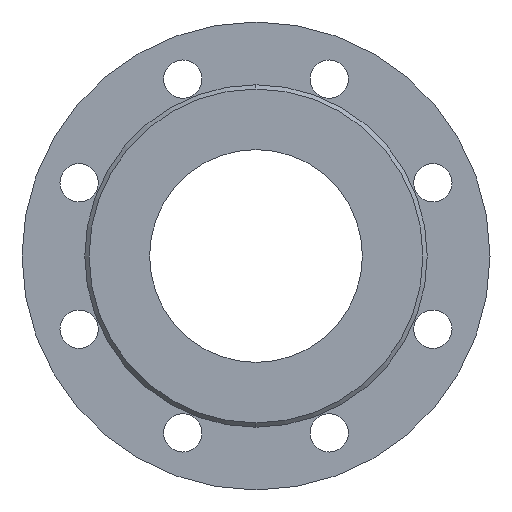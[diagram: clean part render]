
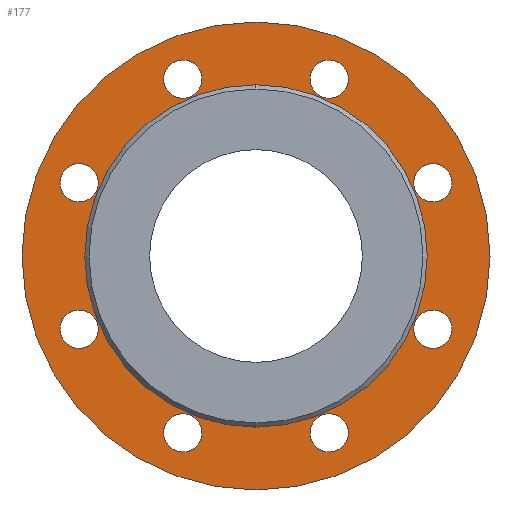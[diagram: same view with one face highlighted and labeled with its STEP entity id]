
A CAD part, left-side view. The second image highlights one B-rep face of the part: STEP entity #177.
In plain terms, the highlighted planar face has unit normal (-1, 0, 0).
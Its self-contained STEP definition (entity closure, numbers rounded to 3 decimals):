
#177=ADVANCED_FACE('',(#361,#362,#363,#364,#365,#366,#367,#368,#369,#370),#371,.F.);
#361=FACE_BOUND('',#622,.T.);
#362=FACE_BOUND('',#623,.T.);
#363=FACE_BOUND('',#624,.T.);
#364=FACE_BOUND('',#625,.T.);
#365=FACE_BOUND('',#626,.T.);
#366=FACE_BOUND('',#627,.T.);
#367=FACE_BOUND('',#628,.T.);
#368=FACE_BOUND('',#629,.T.);
#369=FACE_BOUND('',#630,.T.);
#370=FACE_OUTER_BOUND('',#631,.T.);
#371=PLANE('',#632);
#622=EDGE_LOOP('',(#966,#967));
#623=EDGE_LOOP('',(#968,#969));
#624=EDGE_LOOP('',(#970,#971));
#625=EDGE_LOOP('',(#972,#973));
#626=EDGE_LOOP('',(#974,#975));
#627=EDGE_LOOP('',(#976,#977));
#628=EDGE_LOOP('',(#978,#979));
#629=EDGE_LOOP('',(#980,#981));
#630=EDGE_LOOP('',(#982,#983));
#631=EDGE_LOOP('',(#984,#985));
#632=AXIS2_PLACEMENT_3D('',#986,#987,#988);
#966=ORIENTED_EDGE('',*,*,#1439,.T.);
#967=ORIENTED_EDGE('',*,*,#1434,.T.);
#968=ORIENTED_EDGE('',*,*,#1457,.T.);
#969=ORIENTED_EDGE('',*,*,#1458,.T.);
#970=ORIENTED_EDGE('',*,*,#1395,.T.);
#971=ORIENTED_EDGE('',*,*,#1459,.T.);
#972=ORIENTED_EDGE('',*,*,#1460,.T.);
#973=ORIENTED_EDGE('',*,*,#1461,.T.);
#974=ORIENTED_EDGE('',*,*,#1462,.T.);
#975=ORIENTED_EDGE('',*,*,#1453,.T.);
#976=ORIENTED_EDGE('',*,*,#1437,.T.);
#977=ORIENTED_EDGE('',*,*,#1374,.T.);
#978=ORIENTED_EDGE('',*,*,#1463,.T.);
#979=ORIENTED_EDGE('',*,*,#1443,.T.);
#980=ORIENTED_EDGE('',*,*,#1464,.T.);
#981=ORIENTED_EDGE('',*,*,#1465,.T.);
#982=ORIENTED_EDGE('',*,*,#1466,.T.);
#983=ORIENTED_EDGE('',*,*,#1364,.T.);
#984=ORIENTED_EDGE('',*,*,#1467,.F.);
#985=ORIENTED_EDGE('',*,*,#1418,.F.);
#986=CARTESIAN_POINT('',(2.0,0.0,0.));
#987=DIRECTION('',(1.0,0.0,0.));
#988=DIRECTION('',(0.,0.0,-1.0));
#1364=EDGE_CURVE('',#1597,#1595,#1598,.T.);
#1374=EDGE_CURVE('',#1615,#1613,#1616,.T.);
#1395=EDGE_CURVE('',#1644,#1648,#1650,.T.);
#1418=EDGE_CURVE('',#1687,#1682,#1689,.T.);
#1434=EDGE_CURVE('',#1711,#1715,#1717,.T.);
#1437=EDGE_CURVE('',#1613,#1615,#1720,.T.);
#1439=EDGE_CURVE('',#1715,#1711,#1722,.T.);
#1443=EDGE_CURVE('',#1728,#1726,#1729,.T.);
#1453=EDGE_CURVE('',#1746,#1744,#1747,.T.);
#1457=EDGE_CURVE('',#1752,#1753,#1754,.T.);
#1458=EDGE_CURVE('',#1753,#1752,#1755,.T.);
#1459=EDGE_CURVE('',#1648,#1644,#1756,.T.);
#1460=EDGE_CURVE('',#1757,#1758,#1759,.T.);
#1461=EDGE_CURVE('',#1758,#1757,#1760,.T.);
#1462=EDGE_CURVE('',#1744,#1746,#1761,.T.);
#1463=EDGE_CURVE('',#1726,#1728,#1762,.T.);
#1464=EDGE_CURVE('',#1763,#1764,#1765,.T.);
#1465=EDGE_CURVE('',#1764,#1763,#1766,.T.);
#1466=EDGE_CURVE('',#1595,#1597,#1767,.T.);
#1467=EDGE_CURVE('',#1682,#1687,#1768,.T.);
#1595=VERTEX_POINT('',#1926);
#1597=VERTEX_POINT('',#1929);
#1598=CIRCLE('',#1930,9.0);
#1613=VERTEX_POINT('',#1948);
#1615=VERTEX_POINT('',#1951);
#1616=CIRCLE('',#1952,9.0);
#1644=VERTEX_POINT('',#1985);
#1648=VERTEX_POINT('',#1990);
#1650=CIRCLE('',#1993,9.0);
#1682=VERTEX_POINT('',#2031);
#1687=VERTEX_POINT('',#2037);
#1689=CIRCLE('',#2040,110.0);
#1711=VERTEX_POINT('',#2066);
#1715=VERTEX_POINT('',#2071);
#1717=CIRCLE('',#2074,50.0);
#1720=CIRCLE('',#2077,9.0);
#1722=CIRCLE('',#2079,50.0);
#1726=VERTEX_POINT('',#2083);
#1728=VERTEX_POINT('',#2086);
#1729=CIRCLE('',#2087,9.0);
#1744=VERTEX_POINT('',#2105);
#1746=VERTEX_POINT('',#2108);
#1747=CIRCLE('',#2109,9.0);
#1752=VERTEX_POINT('',#2115);
#1753=VERTEX_POINT('',#2116);
#1754=CIRCLE('',#2117,9.0);
#1755=CIRCLE('',#2118,9.0);
#1756=CIRCLE('',#2119,9.0);
#1757=VERTEX_POINT('',#2120);
#1758=VERTEX_POINT('',#2121);
#1759=CIRCLE('',#2122,9.0);
#1760=CIRCLE('',#2123,9.0);
#1761=CIRCLE('',#2124,9.0);
#1762=CIRCLE('',#2125,9.0);
#1763=VERTEX_POINT('',#2126);
#1764=VERTEX_POINT('',#2127);
#1765=CIRCLE('',#2128,9.0);
#1766=CIRCLE('',#2129,9.0);
#1767=CIRCLE('',#2130,9.0);
#1768=CIRCLE('',#2131,110.0);
#1926=CARTESIAN_POINT('',(2.0,-34.442,-92.149));
#1929=CARTESIAN_POINT('',(2.0,-34.442,-74.149));
#1930=AXIS2_PLACEMENT_3D('',#2297,#2298,#2299);
#1948=CARTESIAN_POINT('',(2.0,83.149,25.442));
#1951=CARTESIAN_POINT('',(2.0,83.149,43.442));
#1952=AXIS2_PLACEMENT_3D('',#2313,#2314,#2315);
#1985=CARTESIAN_POINT('',(2.0,34.442,-92.149));
#1990=CARTESIAN_POINT('',(2.0,34.442,-74.149));
#1993=AXIS2_PLACEMENT_3D('',#2347,#2348,#2349);
#2031=CARTESIAN_POINT('',(2.,0.0,-110.0));
#2037=CARTESIAN_POINT('',(2.,0.,110.0));
#2040=AXIS2_PLACEMENT_3D('',#2385,#2386,#2387);
#2066=CARTESIAN_POINT('',(2.0,0.,-50.0));
#2071=CARTESIAN_POINT('',(2.0,0.,50.0));
#2074=AXIS2_PLACEMENT_3D('',#2409,#2410,#2411);
#2077=AXIS2_PLACEMENT_3D('',#2415,#2416,#2417);
#2079=AXIS2_PLACEMENT_3D('',#2418,#2419,#2420);
#2083=CARTESIAN_POINT('',(2.0,34.442,74.149));
#2086=CARTESIAN_POINT('',(2.,34.442,92.149));
#2087=AXIS2_PLACEMENT_3D('',#2425,#2426,#2427);
#2105=CARTESIAN_POINT('',(2.0,-34.442,74.149));
#2108=CARTESIAN_POINT('',(2.,-34.442,92.149));
#2109=AXIS2_PLACEMENT_3D('',#2441,#2442,#2443);
#2115=CARTESIAN_POINT('',(2.0,83.149,-43.442));
#2116=CARTESIAN_POINT('',(2.0,83.149,-25.442));
#2117=AXIS2_PLACEMENT_3D('',#2448,#2449,#2450);
#2118=AXIS2_PLACEMENT_3D('',#2451,#2452,#2453);
#2119=AXIS2_PLACEMENT_3D('',#2454,#2455,#2456);
#2120=CARTESIAN_POINT('',(2.0,-83.149,25.442));
#2121=CARTESIAN_POINT('',(2.0,-83.149,43.442));
#2122=AXIS2_PLACEMENT_3D('',#2457,#2458,#2459);
#2123=AXIS2_PLACEMENT_3D('',#2460,#2461,#2462);
#2124=AXIS2_PLACEMENT_3D('',#2463,#2464,#2465);
#2125=AXIS2_PLACEMENT_3D('',#2466,#2467,#2468);
#2126=CARTESIAN_POINT('',(2.0,-83.149,-43.442));
#2127=CARTESIAN_POINT('',(2.0,-83.149,-25.442));
#2128=AXIS2_PLACEMENT_3D('',#2469,#2470,#2471);
#2129=AXIS2_PLACEMENT_3D('',#2472,#2473,#2474);
#2130=AXIS2_PLACEMENT_3D('',#2475,#2476,#2477);
#2131=AXIS2_PLACEMENT_3D('',#2478,#2479,#2480);
#2297=CARTESIAN_POINT('',(2.0,-34.442,-83.149));
#2298=DIRECTION('',(1.0,0.0,0.));
#2299=DIRECTION('',(0.,0.0,-1.0));
#2313=CARTESIAN_POINT('',(2.0,83.149,34.442));
#2314=DIRECTION('',(1.0,0.0,0.));
#2315=DIRECTION('',(0.,0.0,-1.0));
#2347=CARTESIAN_POINT('',(2.0,34.442,-83.149));
#2348=DIRECTION('',(1.0,0.0,0.));
#2349=DIRECTION('',(0.,0.0,-1.0));
#2385=CARTESIAN_POINT('',(2.0,0.0,0.));
#2386=DIRECTION('',(1.0,0.0,0.));
#2387=DIRECTION('',(0.,0.0,-1.0));
#2409=CARTESIAN_POINT('',(2.0,0.0,0.));
#2410=DIRECTION('',(1.0,0.0,0.));
#2411=DIRECTION('',(0.,0.0,-1.0));
#2415=CARTESIAN_POINT('',(2.0,83.149,34.442));
#2416=DIRECTION('',(1.0,0.0,0.));
#2417=DIRECTION('',(0.,0.0,-1.0));
#2418=CARTESIAN_POINT('',(2.0,0.0,0.));
#2419=DIRECTION('',(1.0,0.0,0.));
#2420=DIRECTION('',(0.,0.0,-1.0));
#2425=CARTESIAN_POINT('',(2.,34.442,83.149));
#2426=DIRECTION('',(1.0,0.0,0.));
#2427=DIRECTION('',(0.,0.0,-1.0));
#2441=CARTESIAN_POINT('',(2.,-34.442,83.149));
#2442=DIRECTION('',(1.0,0.0,0.));
#2443=DIRECTION('',(0.,0.0,-1.0));
#2448=CARTESIAN_POINT('',(2.0,83.149,-34.442));
#2449=DIRECTION('',(1.0,0.0,0.));
#2450=DIRECTION('',(0.,0.0,-1.0));
#2451=CARTESIAN_POINT('',(2.0,83.149,-34.442));
#2452=DIRECTION('',(1.0,0.0,0.));
#2453=DIRECTION('',(0.,0.0,-1.0));
#2454=CARTESIAN_POINT('',(2.0,34.442,-83.149));
#2455=DIRECTION('',(1.0,0.0,0.));
#2456=DIRECTION('',(0.,0.0,-1.0));
#2457=CARTESIAN_POINT('',(2.0,-83.149,34.442));
#2458=DIRECTION('',(1.0,0.0,0.));
#2459=DIRECTION('',(0.,0.0,-1.0));
#2460=CARTESIAN_POINT('',(2.0,-83.149,34.442));
#2461=DIRECTION('',(1.0,0.0,0.));
#2462=DIRECTION('',(0.,0.0,-1.0));
#2463=CARTESIAN_POINT('',(2.,-34.442,83.149));
#2464=DIRECTION('',(1.0,0.0,0.));
#2465=DIRECTION('',(0.,0.0,-1.0));
#2466=CARTESIAN_POINT('',(2.,34.442,83.149));
#2467=DIRECTION('',(1.0,0.0,0.));
#2468=DIRECTION('',(0.,0.0,-1.0));
#2469=CARTESIAN_POINT('',(2.0,-83.149,-34.442));
#2470=DIRECTION('',(1.0,0.0,0.));
#2471=DIRECTION('',(0.,0.0,-1.0));
#2472=CARTESIAN_POINT('',(2.0,-83.149,-34.442));
#2473=DIRECTION('',(1.0,0.0,0.));
#2474=DIRECTION('',(0.,0.0,-1.0));
#2475=CARTESIAN_POINT('',(2.0,-34.442,-83.149));
#2476=DIRECTION('',(1.0,0.0,0.));
#2477=DIRECTION('',(0.,0.0,-1.0));
#2478=CARTESIAN_POINT('',(2.0,0.0,0.));
#2479=DIRECTION('',(1.0,0.0,0.));
#2480=DIRECTION('',(0.,0.0,-1.0));
